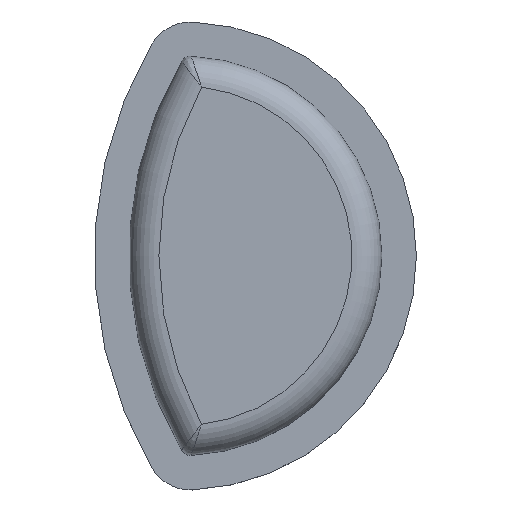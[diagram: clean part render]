
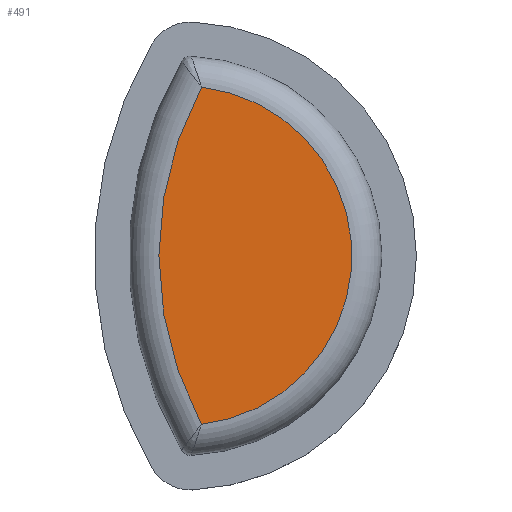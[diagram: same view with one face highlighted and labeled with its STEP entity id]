
A CAD part, top view. The second image highlights one B-rep face of the part: STEP entity #491.
In plain terms, the highlighted planar face has unit normal (0, 0, 1).
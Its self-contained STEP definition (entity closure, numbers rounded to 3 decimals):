
#29=PLANE('',#569);
#129=FACE_OUTER_BOUND('',#162,.T.);
#162=EDGE_LOOP('',(#433,#434));
#197=CIRCLE('',#560,11.85);
#200=CIRCLE('',#564,5.659);
#240=VERTEX_POINT('',#881);
#243=VERTEX_POINT('',#933);
#304=EDGE_CURVE('',#240,#243,#197,.T.);
#307=EDGE_CURVE('',#243,#240,#200,.T.);
#433=ORIENTED_EDGE('',*,*,#304,.F.);
#434=ORIENTED_EDGE('',*,*,#307,.F.);
#491=ADVANCED_FACE('',(#129),#29,.T.);
#560=AXIS2_PLACEMENT_3D('',#951,#702,#703);
#564=AXIS2_PLACEMENT_3D('',#955,#710,#711);
#569=AXIS2_PLACEMENT_3D('',#966,#723,#724);
#702=DIRECTION('center_axis',(0.,0.,-1.));
#703=DIRECTION('ref_axis',(-1.,0.,0.));
#710=DIRECTION('center_axis',(0.,0.,-1.));
#711=DIRECTION('ref_axis',(1.,0.,0.));
#723=DIRECTION('center_axis',(0.,0.,1.));
#724=DIRECTION('ref_axis',(1.,0.,0.));
#881=CARTESIAN_POINT('',(97.834,7.029,21.788));
#933=CARTESIAN_POINT('',(97.834,18.273,21.788));
#951=CARTESIAN_POINT('Origin',(108.266,12.651,21.788));
#955=CARTESIAN_POINT('Origin',(97.191,12.651,21.788));
#966=CARTESIAN_POINT('Origin',(99.633,12.651,21.788));
